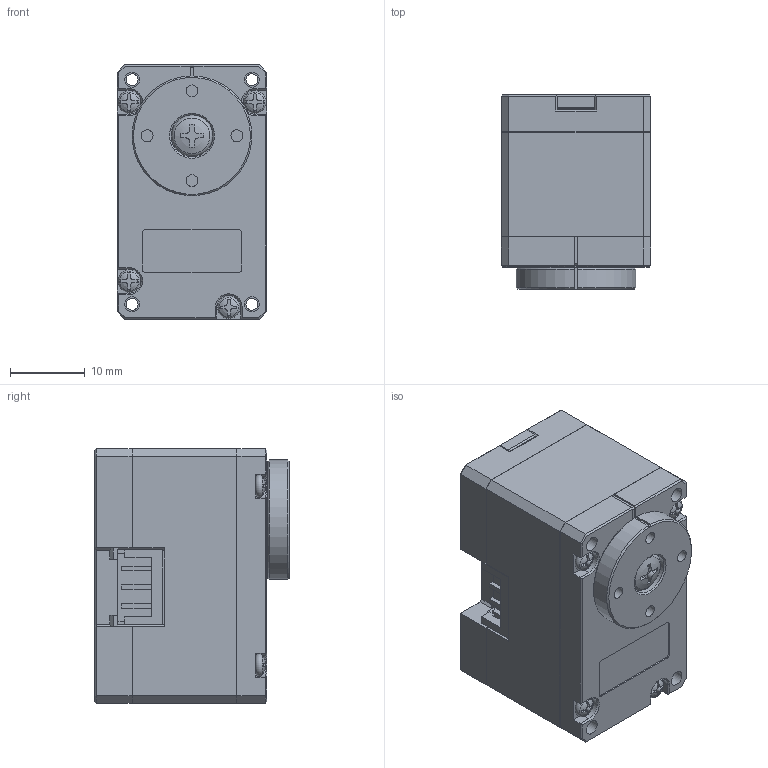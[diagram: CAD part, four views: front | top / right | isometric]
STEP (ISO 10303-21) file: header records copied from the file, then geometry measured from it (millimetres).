
FILE_DESCRIPTION(/* description */ (''),/* implementation_level */ '2;1');
FILE_NAME(/* name */ '1DOF-M0.step',/* time_stamp */ '2026-09-01T18:29:27+04:00',/* author */ (''),/* organization */ (''),/* preprocessor_version */ 'ST-DEVELOPER v20.1',/* originating_system */ 'Autodesk Translation Framework v15.8.0.0',/* authorisation */ '');
FILE_SCHEMA (('AUTOMOTIVE_DESIGN { 1 0 10303 214 3 1 1 }'));
Length unit declared in the file: millimetre
Products named in the file (2): 2026-08-27-23-25-10-766; 2026-08-23-02-38-30-805
Assembly tree (1 placements, depth 2):
  2026-08-27-23-25-10-766
    2026-08-23-02-38-30-805
Bounding box: 20 x 26 x 34 mm (x, y, z)
Volume: 15106.9 mm3; surface area: 6976.6 mm2
Topology: 1 solids, 11 shells, 561 faces, 1436 edges, 931 vertices
Faces by surface type: plane 417, cylinder 113, cone 19, torus 7, sphere 5
Full cylindrical faces by diameter (mm): 1.4 x8, 1.6 x12, 1.8 x4, 2 x8, 2.2 x1, 5 x1, 5.2 x1, 5.6 x1, 6 x1, 6.7 x1, 7.8 x1, 10 x2, 14 x2
Entity records: 17072 total; most frequent: CARTESIAN_POINT 3129, ORIENTED_EDGE 2872, DIRECTION 2845, EDGE_CURVE 1436, LINE 1097, VECTOR 1097, VERTEX_POINT 931, AXIS2_PLACEMENT_3D 874
